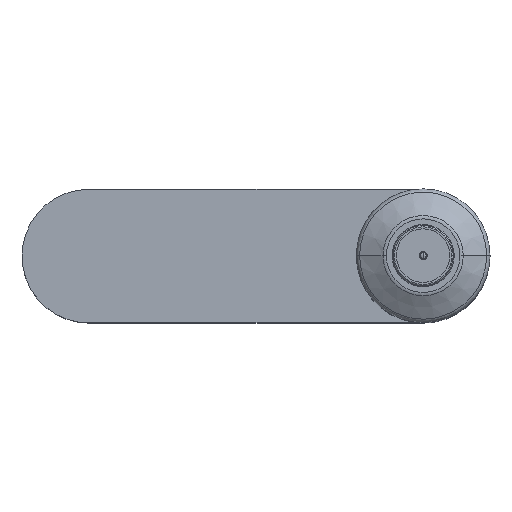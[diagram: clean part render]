
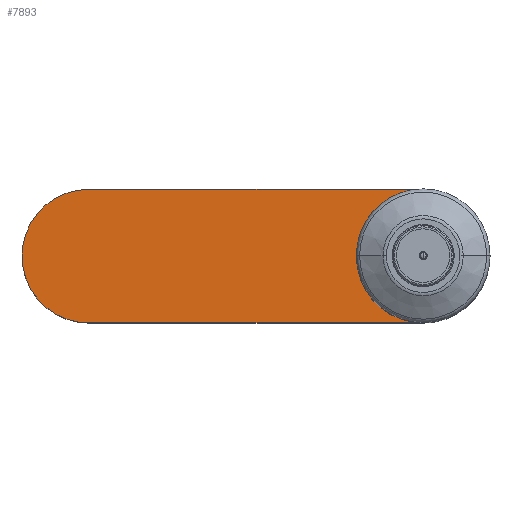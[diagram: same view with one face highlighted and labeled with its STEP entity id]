
A CAD part, top view. The second image highlights one B-rep face of the part: STEP entity #7893.
In plain terms, the highlighted planar face has unit normal (0, 0, 1).
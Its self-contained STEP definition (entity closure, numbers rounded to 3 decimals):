
#51 = CARTESIAN_POINT ( 'NONE',  ( 0., 10., 27. ) ) ;
#101 = AXIS2_PLACEMENT_3D ( 'NONE', #2797, #8991, #10685 ) ;
#245 = CARTESIAN_POINT ( 'NONE',  ( -50., -10., 27. ) ) ;
#337 = VECTOR ( 'NONE', #2096, 1000. ) ;
#1041 = ORIENTED_EDGE ( 'NONE', *, *, #7792, .T. ) ;
#1339 = AXIS2_PLACEMENT_3D ( 'NONE', #4819, #4890, #6588 ) ;
#1384 = CARTESIAN_POINT ( 'NONE',  ( -50., 10., 27. ) ) ;
#1457 = EDGE_CURVE ( 'NONE', #6496, #2970, #4850, .T. ) ;
#2096 = DIRECTION ( 'NONE',  ( 1., 0., 0. ) ) ;
#2119 = CARTESIAN_POINT ( 'NONE',  ( 0., 0., 27. ) ) ;
#2215 = CIRCLE ( 'NONE', #11132, 10. ) ;
#2529 = ORIENTED_EDGE ( 'NONE', *, *, #1457, .T. ) ;
#2797 = CARTESIAN_POINT ( 'NONE',  ( -50., 0., 27. ) ) ;
#2832 = CARTESIAN_POINT ( 'NONE',  ( -50., -10., 27. ) ) ;
#2970 = VERTEX_POINT ( 'NONE', #245 ) ;
#3969 = VERTEX_POINT ( 'NONE', #11273 ) ;
#4150 = VERTEX_POINT ( 'NONE', #51 ) ;
#4727 = DIRECTION ( 'NONE',  ( 0., -1., 0. ) ) ;
#4819 = CARTESIAN_POINT ( 'NONE',  ( -50., 0., 27. ) ) ;
#4850 = CIRCLE ( 'NONE', #101, 10. ) ;
#4890 = DIRECTION ( 'NONE',  ( 0., 0., -1. ) ) ;
#5315 = VECTOR ( 'NONE', #8881, 1000. ) ;
#5455 = FACE_OUTER_BOUND ( 'NONE', #10410, .T. ) ;
#6173 = CARTESIAN_POINT ( 'NONE',  ( -50., 10., 27. ) ) ;
#6496 = VERTEX_POINT ( 'NONE', #1384 ) ;
#6588 = DIRECTION ( 'NONE',  ( 0., -1., 0. ) ) ;
#6833 = LINE ( 'NONE', #2832, #337 ) ;
#7569 = PLANE ( 'NONE',  #1339 ) ;
#7594 = EDGE_CURVE ( 'NONE', #4150, #6496, #7678, .T. ) ;
#7678 = LINE ( 'NONE', #6173, #5315 ) ;
#7792 = EDGE_CURVE ( 'NONE', #2970, #3969, #6833, .T. ) ;
#7893 = ADVANCED_FACE ( 'NONE', ( #5455 ), #7569, .F. ) ;
#8881 = DIRECTION ( 'NONE',  ( -1., 0., 0. ) ) ;
#8991 = DIRECTION ( 'NONE',  ( 0., 0., 1. ) ) ;
#9197 = DIRECTION ( 'NONE',  ( 0., 0., -1. ) ) ;
#10410 = EDGE_LOOP ( 'NONE', ( #1041, #10475, #10792, #2529 ) ) ;
#10475 = ORIENTED_EDGE ( 'NONE', *, *, #11115, .T. ) ;
#10685 = DIRECTION ( 'NONE',  ( 0., -1., 0. ) ) ;
#10792 = ORIENTED_EDGE ( 'NONE', *, *, #7594, .T. ) ;
#11115 = EDGE_CURVE ( 'NONE', #3969, #4150, #2215, .T. ) ;
#11132 = AXIS2_PLACEMENT_3D ( 'NONE', #2119, #9197, #4727 ) ;
#11273 = CARTESIAN_POINT ( 'NONE',  ( 0., -10., 27. ) ) ;
